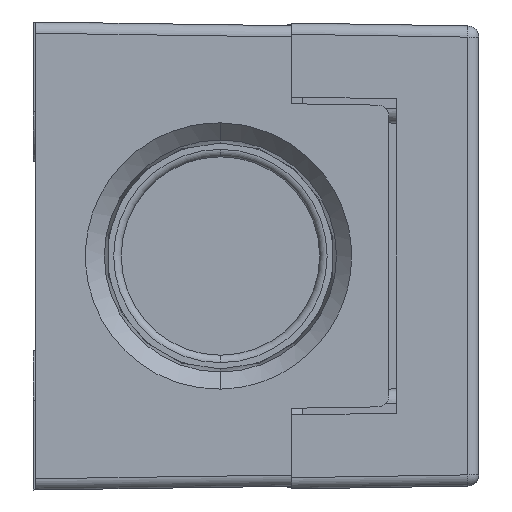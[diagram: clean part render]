
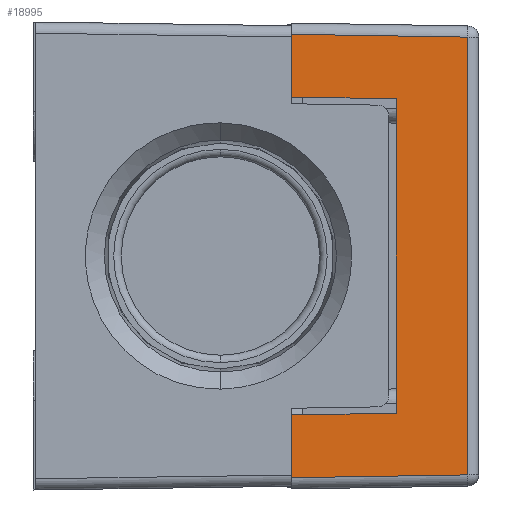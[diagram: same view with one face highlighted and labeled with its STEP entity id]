
A CAD part, front view. The second image highlights one B-rep face of the part: STEP entity #18995.
In plain terms, the highlighted planar face has unit normal (0.016, -1, 0).
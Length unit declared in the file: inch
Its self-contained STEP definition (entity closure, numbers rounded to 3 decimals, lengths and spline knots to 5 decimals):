
#2457=DIRECTION('',(0.,0.,1.));
#2458=VECTOR('',#2457,0.2515);
#2459=CARTESIAN_POINT('',(0.19,-3.68572,-0.88823));
#2460=LINE('',#2459,#2458);
#2645=DIRECTION('',(0.,0.,1.));
#2646=VECTOR('',#2645,0.2515);
#2647=CARTESIAN_POINT('',(0.19,-3.68572,0.63672));
#2648=LINE('',#2647,#2646);
#4108=DIRECTION('',(0.,0.,-1.));
#4109=VECTOR('',#4108,1.75386);
#4110=CARTESIAN_POINT('',(0.89572,-3.67442,
0.87693));
#4111=LINE('',#4110,#4109);
#4135=DIRECTION('',(-1.,-0.016,0.016));
#4136=VECTOR('',#4135,0.7059);
#4137=CARTESIAN_POINT('',(0.89572,-3.67442,
0.87693));
#4138=LINE('',#4137,#4136);
#4139=DIRECTION('',(1.,0.016,0.016));
#4140=VECTOR('',#4139,0.7059);
#4141=CARTESIAN_POINT('',(0.19,-3.68572,-0.88823));
#4142=LINE('',#4141,#4140);
#4143=DIRECTION('',(-1.,-0.016,-0.016));
#4144=VECTOR('',#4143,0.42011);
#4145=CARTESIAN_POINT('',(0.61,-3.679,-0.63));
#4146=LINE('',#4145,#4144);
#4147=DIRECTION('',(0.,0.,-1.));
#4148=VECTOR('',#4147,1.26);
#4149=CARTESIAN_POINT('',(0.61,-3.679,0.63));
#4150=LINE('',#4149,#4148);
#4151=DIRECTION('',(1.,0.016,-0.016));
#4152=VECTOR('',#4151,0.42011);
#4153=CARTESIAN_POINT('',(0.19,-3.68572,0.63672));
#4154=LINE('',#4153,#4152);
#13928=CARTESIAN_POINT('',(0.89572,-3.67442,
0.87693));
#13929=VERTEX_POINT('',#13928);
#13930=CARTESIAN_POINT('',(0.89572,-3.67442,
-0.87693));
#13931=VERTEX_POINT('',#13930);
#13987=CARTESIAN_POINT('',(0.19,-3.68572,0.88823));
#13988=VERTEX_POINT('',#13987);
#13989=CARTESIAN_POINT('',(0.19,-3.68572,-0.88823));
#13990=VERTEX_POINT('',#13989);
#14014=CARTESIAN_POINT('',(0.19,-3.68572,0.63672));
#14015=VERTEX_POINT('',#14014);
#14016=CARTESIAN_POINT('',(0.19,-3.68572,-0.63672));
#14017=VERTEX_POINT('',#14016);
#14037=CARTESIAN_POINT('',(0.61,-3.679,0.63));
#14038=VERTEX_POINT('',#14037);
#14039=CARTESIAN_POINT('',(0.61,-3.679,-0.63));
#14040=VERTEX_POINT('',#14039);
#18978=CARTESIAN_POINT('',(0.235,-3.685,0.98678));
#18979=DIRECTION('',(0.016,-1.,0.));
#18980=DIRECTION('',(0.,0.,1.));
#18981=AXIS2_PLACEMENT_3D('',#18978,#18979,#18980);
#18982=PLANE('',#18981);
#18983=ORIENTED_EDGE('',*,*,#17873,.T.);
#18984=ORIENTED_EDGE('',*,*,#18973,.F.);
#18985=ORIENTED_EDGE('',*,*,#18935,.T.);
#18987=ORIENTED_EDGE('',*,*,#18986,.F.);
#18988=ORIENTED_EDGE('',*,*,#17738,.T.);
#18989=ORIENTED_EDGE('',*,*,#17709,.F.);
#18991=ORIENTED_EDGE('',*,*,#18990,.F.);
#18992=ORIENTED_EDGE('',*,*,#17848,.F.);
#18993=EDGE_LOOP('',(#18983,#18984,#18985,#18987,#18988,#18989,#18991,#18992));
#18994=FACE_OUTER_BOUND('',#18993,.F.);
#18995=ADVANCED_FACE('',(#18994),#18982,.T.);
#17709=EDGE_CURVE('',#14040,#14017,#4146,.T.);
#17738=EDGE_CURVE('',#13990,#14017,#2460,.T.);
#17848=EDGE_CURVE('',#14015,#14038,#4154,.T.);
#17873=EDGE_CURVE('',#14015,#13988,#2648,.T.);
#18935=EDGE_CURVE('',#13929,#13931,#4111,.T.);
#18973=EDGE_CURVE('',#13929,#13988,#4138,.T.);
#18986=EDGE_CURVE('',#13990,#13931,#4142,.T.);
#18990=EDGE_CURVE('',#14038,#14040,#4150,.T.);
